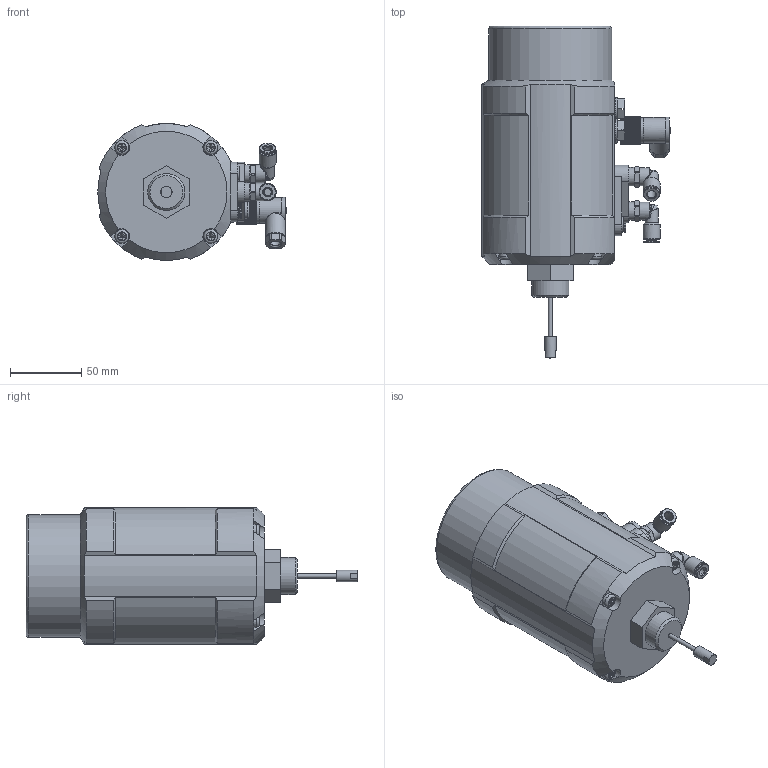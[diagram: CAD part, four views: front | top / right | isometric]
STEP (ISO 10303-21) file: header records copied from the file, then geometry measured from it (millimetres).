
FILE_DESCRIPTION(('STEP AP242'), '1');
FILE_NAME('ÝÈÏ-1600 Ýëåêòðîïíåâìàòè÷åñêèé ïîçèöèîíåð DN.ru', '2026-04-22T18:08:56', ('R2D2'), (''), 'C3D Converter', 'C3D Toolkit', '');
FILE_SCHEMA(('AP242_MANAGED_MODEL_BASED_3D_ENGINEERING_MIM_LF { 1 0 10303 442 1 1 4 }'));
Length unit declared in the file: millimetre
Products named in the file (1): ЭИП-1600
Bounding box: 132 x 232.5 x 96 mm (x, y, z)
Volume: 6445.5 mm3; surface area: 84343.8 mm2
Topology: 7 solids, 144 shells, 3279 faces, 8962 edges, 5828 vertices
Faces by surface type: plane 2115, cone 546, cylinder 535, bspline 58, torus 22, sphere 3
Full cylindrical faces by diameter (mm): 0.8 x1, 1 x4, 3 x1, 5 x2, 6 x5, 6.15 x3, 7 x1, 7.3 x3, 8 x1, 8.3 x2, 9 x2, 9.6 x2, 10 x4, 10.106 x1, 10.6 x1, 10.939 x2, 11.5 x3, 11.81 x2, 12 x7, 12.5 x2, 12.9 x2, 13 x1, 13.939 x1, 14 x1, 15 x1, 16 x3, 18 x2, 26 x1, 86 x1
Entity records: 154136 total; most frequent: CARTESIAN_POINT 50509, ORIENTED_EDGE 17396, DIRECTION 14842, EDGE_CURVE 8706, VERTEX_POINT 5768, LINE 5530, VECTOR 5530, AXIS2_PLACEMENT_3D 4656
